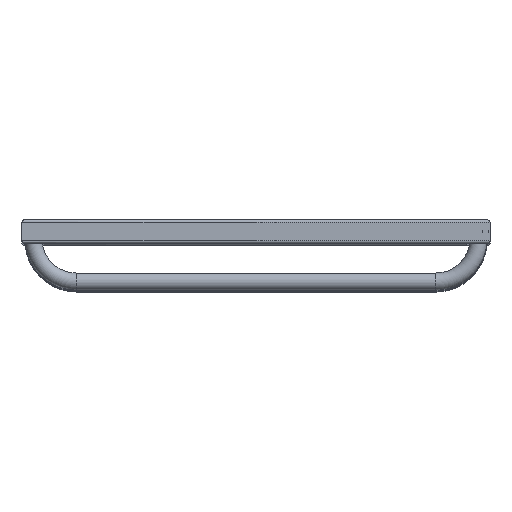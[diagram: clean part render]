
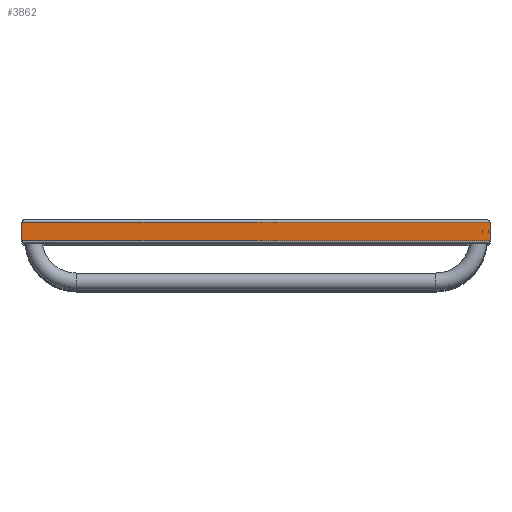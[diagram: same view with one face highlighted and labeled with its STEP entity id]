
A CAD part, top view. The second image highlights one B-rep face of the part: STEP entity #3862.
In plain terms, the highlighted planar face has unit normal (0, 0, 1).
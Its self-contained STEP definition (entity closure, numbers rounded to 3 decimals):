
#243=CARTESIAN_POINT('',(300.,12.,1480.0));
#244=VERTEX_POINT('',#243);
#251=CARTESIAN_POINT('',(300.,-12.,1480.0));
#252=VERTEX_POINT('',#251);
#253=CARTESIAN_POINT('',(300.,12.,1480.0));
#254=DIRECTION('',(0.0,-1.0,0.0));
#255=VECTOR('',#254,24.);
#256=LINE('',#253,#255);
#257=EDGE_CURVE('',#244,#252,#256,.T.);
#3713=CARTESIAN_POINT('',(-300.,12.,1480.0));
#3714=VERTEX_POINT('',#3713);
#3715=CARTESIAN_POINT('',(-300.,12.,1480.0));
#3716=DIRECTION('',(1.0,0.0,0.0));
#3717=VECTOR('',#3716,600.);
#3718=LINE('',#3715,#3717);
#3719=EDGE_CURVE('',#3714,#244,#3718,.T.);
#3757=CARTESIAN_POINT('',(-300.,-12.,1480.0));
#3758=VERTEX_POINT('',#3757);
#3765=CARTESIAN_POINT('',(-300.,-12.,1480.0));
#3766=DIRECTION('',(0.0,1.0,0.0));
#3767=VECTOR('',#3766,24.);
#3768=LINE('',#3765,#3767);
#3769=EDGE_CURVE('',#3758,#3714,#3768,.T.);
#3821=CARTESIAN_POINT('',(300.,-12.,1480.0));
#3822=DIRECTION('',(-1.0,0.0,0.0));
#3823=VECTOR('',#3822,600.);
#3824=LINE('',#3821,#3823);
#3825=EDGE_CURVE('',#252,#3758,#3824,.T.);
#3851=CARTESIAN_POINT('',(285.,0.,1480.0));
#3852=DIRECTION('',(0.0,0.0,1.0));
#3853=DIRECTION('',(1.0,0.0,0.0));
#3854=AXIS2_PLACEMENT_3D('',#3851,#3852,#3853);
#3855=PLANE('',#3854);
#3856=ORIENTED_EDGE('',*,*,#3719,.F.);
#3857=ORIENTED_EDGE('',*,*,#3769,.F.);
#3858=ORIENTED_EDGE('',*,*,#3825,.F.);
#3859=ORIENTED_EDGE('',*,*,#257,.F.);
#3860=EDGE_LOOP('',(#3856,#3857,#3858,#3859));
#3861=FACE_OUTER_BOUND('',#3860,.T.);
#3862=ADVANCED_FACE('',(#3861),#3855,.T.);
